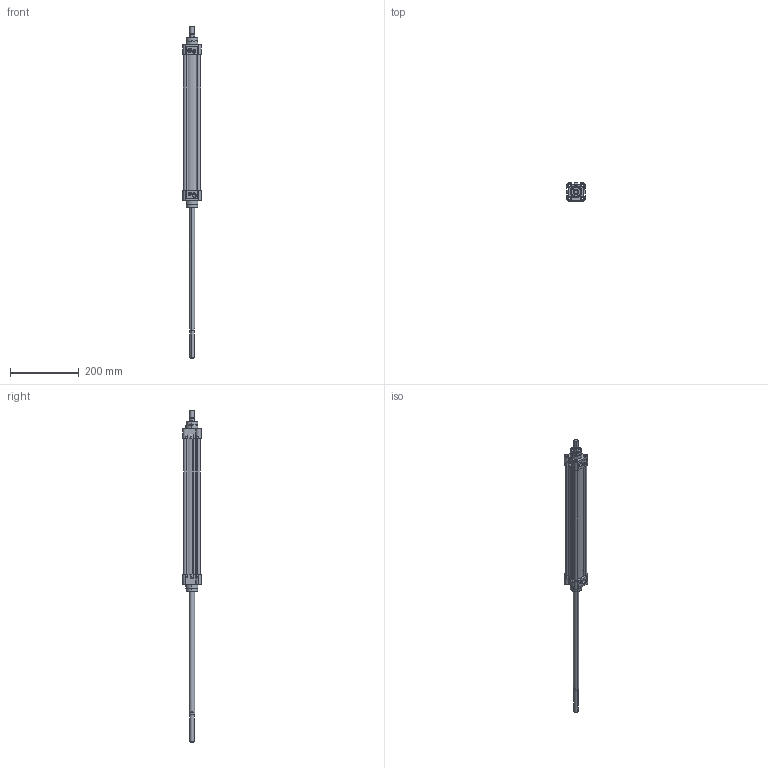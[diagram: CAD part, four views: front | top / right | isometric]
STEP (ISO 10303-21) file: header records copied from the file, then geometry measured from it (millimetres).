
FILE_DESCRIPTION (( 'STEP AP203' ), '1' );
FILE_NAME ('KDNT40X350CIFTMILLI-STROK AYARLI-CYLINDER.STEP', '2016-03-24T12:04:22', ( 'user' ), ( '' ), 'SwSTEP 2.0', 'SolidWorks 2013', '' );
FILE_SCHEMA (( 'CONFIG_CONTROL_DESIGN' ));
Length unit declared in the file: millimetre
Products named in the file (6): 烰 KAPAK  40; KDNT 40X350 BORU; Saplama Mili STROK AYARLI 40X350 STROK; ORTA PÝSTON 40 Çift Milli; KDNT40X350CIFTMILLI-STROK AYARLI-CYLINDER; PÝSTON MÝLÝ 40X350
Assembly tree (6 placements, depth 2):
  KDNT40X350CIFTMILLI-STROK AYARLI-CYLINDER
    烰 KAPAK  40  x2
    KDNT 40X350 BORU
    ORTA PÝSTON 40 Çift Milli
    PÝSTON MÝLÝ 40X350
    Saplama Mili STROK AYARLI 40X350 STROK
Bounding box: 53.06 x 53.36 x 969.1 mm (x, y, z)
Volume: 583229 mm3; surface area: 280923 mm2
Topology: 6 solids, 6 shells, 712 faces, 1724 edges, 1076 vertices
Faces by surface type: cylinder 322, plane 210, cone 112, bspline 54, torus 14
Entity records: 16497 total; most frequent: CARTESIAN_POINT 4805, DIRECTION 2340, ORIENTED_EDGE 2302, EDGE_CURVE 1151, AXIS2_PLACEMENT_3D 917, VERTEX_POINT 725, EDGE_LOOP 544, LINE 506
